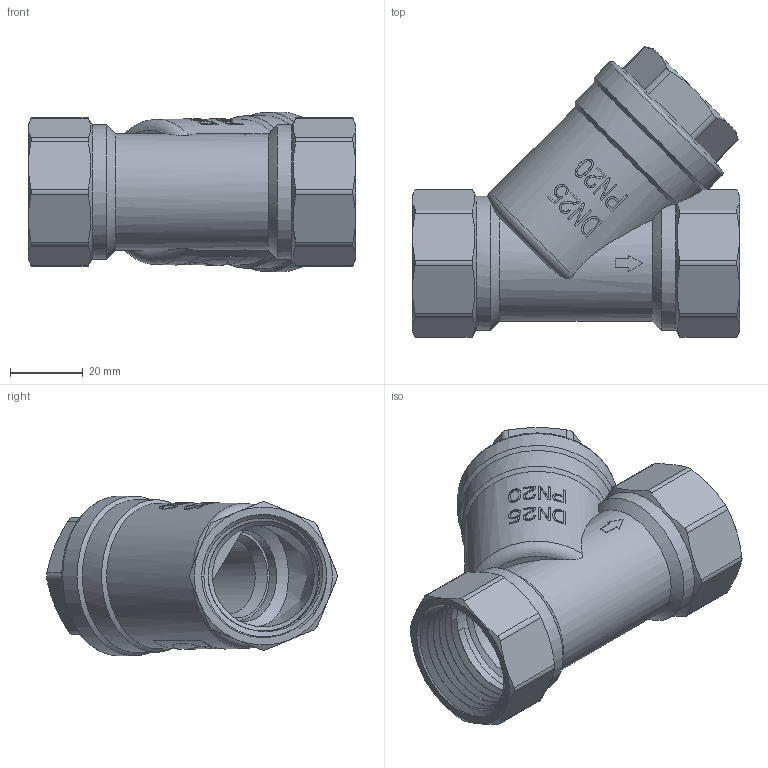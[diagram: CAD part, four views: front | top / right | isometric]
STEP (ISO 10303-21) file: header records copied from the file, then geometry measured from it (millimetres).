
FILE_DESCRIPTION(/* description */ (''),/* implementation_level */ '2;1');
FILE_NAME(/* name */ 'H:\Мишенин_3D\Для каталога DWG\Фильтры\VT.192.N.06.stp',/* time_stamp */ '2019-03-06T08:44:19+03:00',/* author */ ('MisheninAL'),/* organization */ (''),/* preprocessor_version */ 'ST-DEVELOPER v17',/* originating_system */ 'Autodesk Inventor 2019',/* authorisation */ '');
FILE_SCHEMA (('AUTOMOTIVE_DESIGN { 1 0 10303 214 3 1 1 }'));
Length unit declared in the file: millimetre
Products named in the file (1): VT.192.N.06
Bounding box: 90 x 80.02 x 44 mm (x, y, z)
Volume: 57797 mm3; surface area: 53405.6 mm2
Topology: 2 solids, 3 shells, 373 faces, 1073 edges, 730 vertices
Faces by surface type: plane 135, cylinder 104, bspline 90, cone 41, torus 3
Full cylindrical faces by diameter (mm): 21 x1, 23 x1, 24.5 x2, 25 x1, 26.5 x1, 27 x1, 28 x2, 28.5 x1, 30 x1, 30.3 x10, 30.7 x1, 30.72 x1, 31.48 x1, 31.5 x1, 34.9 x14, 35.5 x1, 37 x2, 37.5 x1, 42 x1, 44 x1
Entity records: 18168 total; most frequent: CARTESIAN_POINT 9214, ORIENTED_EDGE 2146, DIRECTION 1466, EDGE_CURVE 1073, VERTEX_POINT 730, AXIS2_PLACEMENT_3D 545, EDGE_LOOP 411, LINE 376
